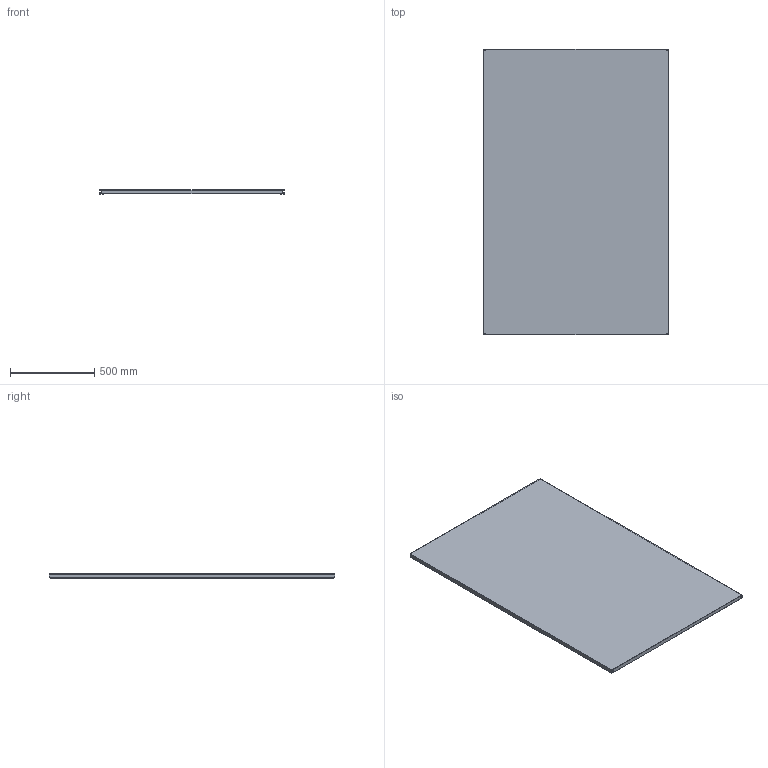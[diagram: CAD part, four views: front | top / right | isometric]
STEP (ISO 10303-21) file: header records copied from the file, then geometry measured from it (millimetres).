
FILE_DESCRIPTION( ( 'STEP AP214' ), '1' );
FILE_NAME( 'p:/temp/worker_144/temp/exporttempdir_1852_197_N79Wu/format_0/MP1812(0).stp', '2021-03-15T23:24:21', ( 'License CC BY-ND 4.0' ), ( 'CADENAS' ), ' ', 'PARTsolutions', ' ' );
FILE_SCHEMA( ( 'AUTOMOTIVE_DESIGN { 1 0 10303 214 1 1 1 1 }' ) );
Length unit declared in the file: millimetre
Products named in the file (2): MP1812(0); _MP1812(0)_P1
Assembly tree (1 placements, depth 2):
  MP1812(0)
    _MP1812(0)_P1
Bounding box: 1094 x 1694 x 24.5 mm (x, y, z)
Volume: 6067674 mm3; surface area: 4062630 mm2
Topology: 1 solids, 1 shells, 42 faces, 120 edges, 80 vertices
Faces by surface type: plane 42
Entity records: 1718 total; most frequent: CARTESIAN_POINT 244, ORIENTED_EDGE 240, DIRECTION 208, EDGE_CURVE 120, LINE 120, VECTOR 120, VERTEX_POINT 80, AXIS2_PLACEMENT_3D 44
